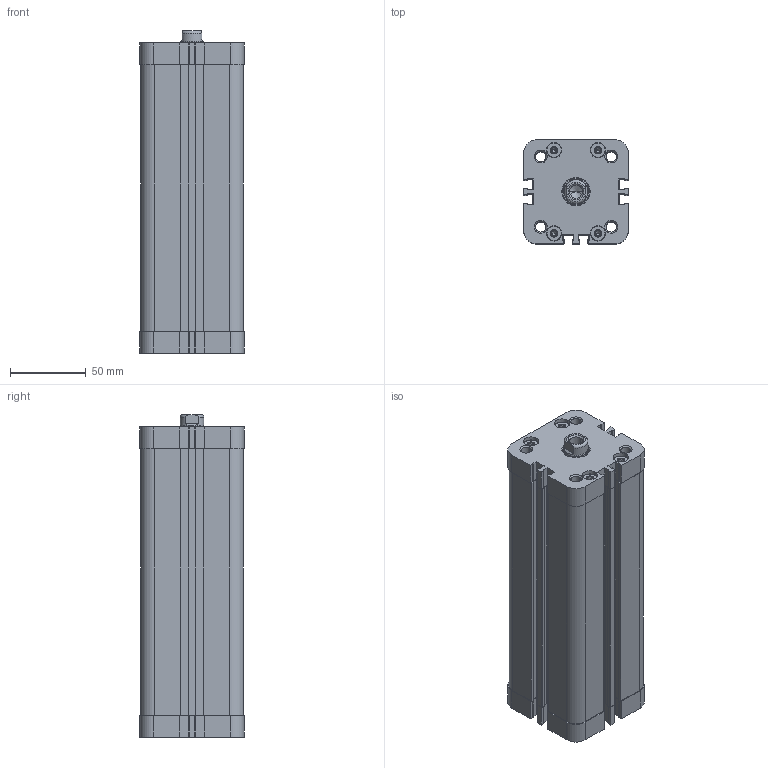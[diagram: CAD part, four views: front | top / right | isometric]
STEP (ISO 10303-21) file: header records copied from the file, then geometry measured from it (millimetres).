
FILE_DESCRIPTION (( 'STEP AP214' ), '1' );
FILE_NAME ('Q11M20500160.STEP', '2021-09-20T15:56:55', ( '' ), ( '' ), 'SwSTEP 2.0', 'SolidWorks 2016', '' );
FILE_SCHEMA (( 'AUTOMOTIVE_DESIGN' ));
Length unit declared in the file: millimetre
Products named in the file (6): Pistone Ø50 ISO 21287 WEB; 000.555.7_000.555.0160; 39.F01.000_39.F01.160; TA Ø50 ISO 21287 WEB; Q11M20500160; TP Ø50 ISO 21287 WEB
Assembly tree (5 placements, depth 2):
  Q11M20500160
    TP Ø50 ISO 21287 WEB
    000.555.7_000.555.0160
    39.F01.000_39.F01.160
    Pistone Ø50 ISO 21287 WEB
    TA Ø50 ISO 21287 WEB
Bounding box: 69 x 69 x 213 mm (x, y, z)
Volume: 393338.8 mm3; surface area: 212832.5 mm2
Topology: 14 solids, 14 shells, 912 faces, 2245 edges, 1389 vertices
Faces by surface type: cylinder 375, plane 353, cone 108, torus 60, bspline 16
Entity records: 35061 total; most frequent: CARTESIAN_POINT 5418, DIRECTION 4938, ORIENTED_EDGE 4454, EDGE_CURVE 2227, AXIS2_PLACEMENT_3D 1937, VERTEX_POINT 1389, LINE 1064, VECTOR 1064
